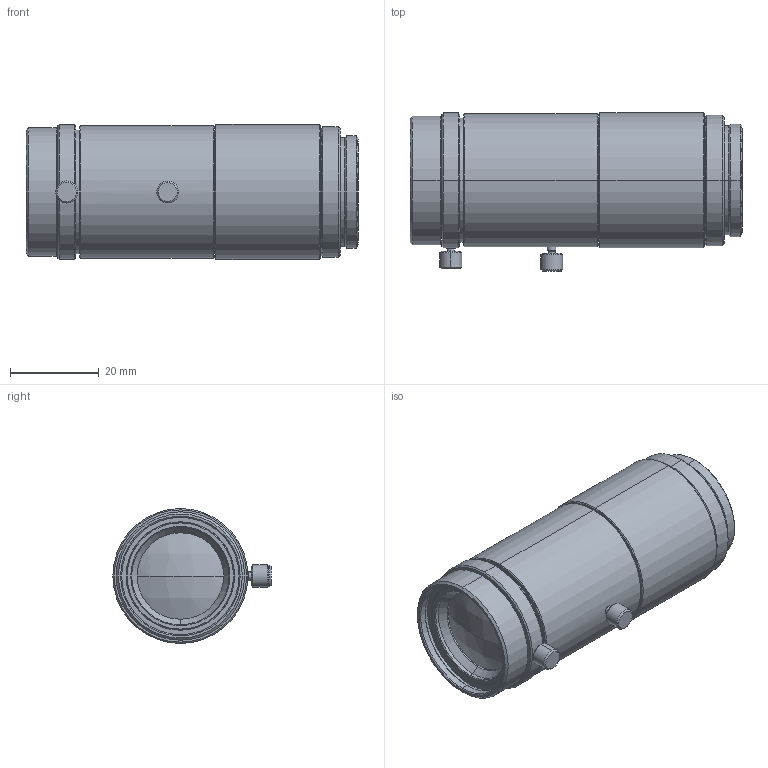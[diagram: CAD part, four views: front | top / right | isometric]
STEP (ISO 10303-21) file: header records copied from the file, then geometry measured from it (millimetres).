
FILE_DESCRIPTION (( 'STEP AP203' ), '1' );
FILE_NAME ('VS-LDA75.STEP', '2016-11-08T06:34:05', ( '' ), ( '' ), 'SwSTEP 2.0', 'SolidWorks 2016', '' );
FILE_SCHEMA (( 'CONFIG_CONTROL_DESIGN' ));
Length unit declared in the file: millimetre
Products named in the file (1): VS-LDA75
Bounding box: 75 x 35.75 x 30.5 mm (x, y, z)
Volume: 43499.3 mm3; surface area: 11328.7 mm2
Topology: 1 solids, 1 shells, 152 faces, 306 edges, 180 vertices
Faces by surface type: cone 74, cylinder 48, plane 24, sphere 4, torus 2
Entity records: 4087 total; most frequent: DIRECTION 788, CARTESIAN_POINT 703, ORIENTED_EDGE 612, AXIS2_PLACEMENT_3D 333, EDGE_CURVE 306, CIRCLE 180, VERTEX_POINT 180, EDGE_LOOP 176
